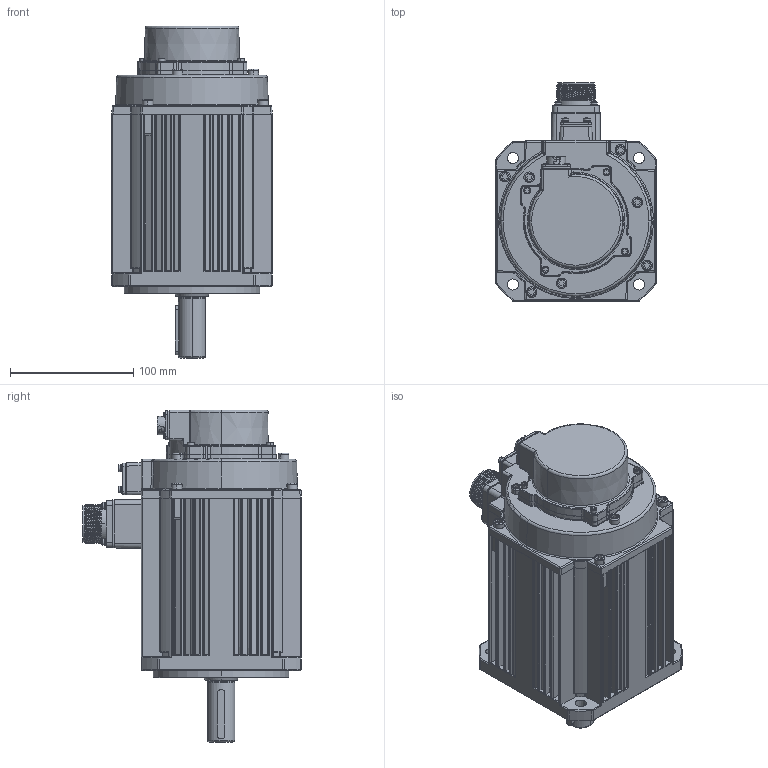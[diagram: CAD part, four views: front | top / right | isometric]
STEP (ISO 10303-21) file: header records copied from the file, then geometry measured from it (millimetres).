
FILE_DESCRIPTION (( 'STEP AP203' ), '1' );
FILE_NAME ('新G3M-13230C25TGAEZ-S002电机三维图.STEP', '2023-05-09T16:09:26', ( '微软用户' ), ( '微软中国' ), 'SwSTEP 2.0', 'SolidWorks 2016', '' );
FILE_SCHEMA (( 'CONFIG_CONTROL_DESIGN' ));
Products named in the file (1): 新G3M-13230C25TGAEZ-S002电机三维图
Bounding box: 130 x 177.4 x 269.5 mm (x, y, z)
Volume: 794620.2 mm3; surface area: 363359.1 mm2
Topology: 35 solids, 35 shells, 4473 faces, 11598 edges, 7345 vertices
Faces by surface type: plane 1734, cylinder 1063, bspline 757, cone 558, torus 278, sphere 83
Entity records: 173949 total; most frequent: CARTESIAN_POINT 69962, ORIENTED_EDGE 22864, DIRECTION 19769, EDGE_CURVE 11432, VERTEX_POINT 7325, AXIS2_PLACEMENT_3D 6929, LINE 5911, VECTOR 5911
